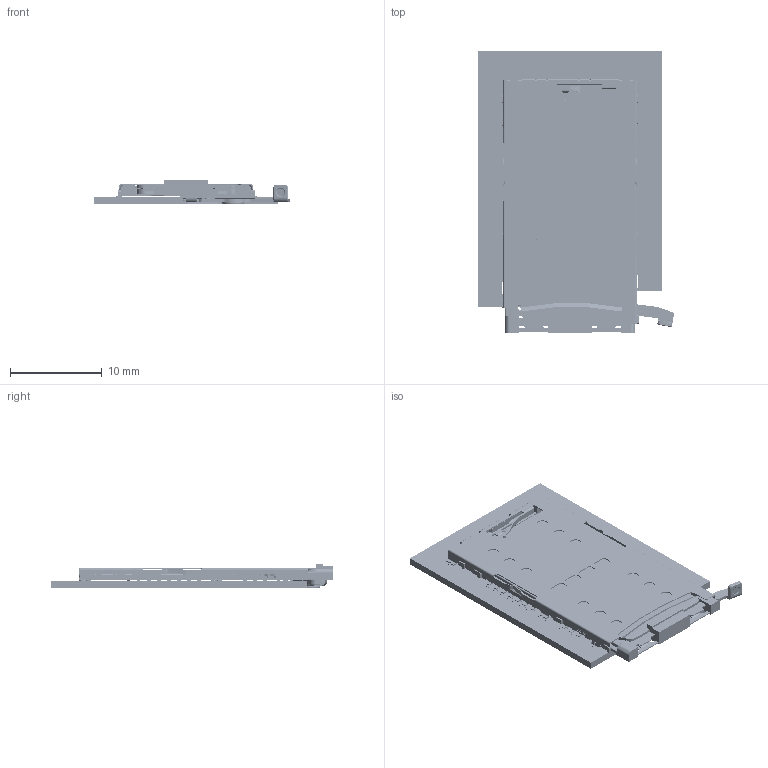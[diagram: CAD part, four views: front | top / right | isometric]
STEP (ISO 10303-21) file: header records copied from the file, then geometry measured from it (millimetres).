
FILE_DESCRIPTION((''),'2;1');
FILE_NAME('1052001BR002','2023-02-13T',('Administrator'),(''),'PRO/ENGINEER BY PARAMETRIC TECHNOLOGY CORPORATION, 2009440','PRO/ENGINEER BY PARAMETRIC TECHNOLOGY CORPORATION, 2009440','');
FILE_SCHEMA(('CONFIG_CONTROL_DESIGN'));
Products named in the file (1): 1052001BR002
Bounding box: 21.29 x 30.67 x 2.65 mm (x, y, z)
Volume: 197.8 mm3; surface area: 4473.2 mm2
Topology: 2 solids, 41 shells, 5819 faces, 16121 edges, 10451 vertices
Faces by surface type: plane 3032, cylinder 2208, extrusion 198, bspline 192, torus 149, cone 35, sphere 5
Entity records: 199239 total; most frequent: CARTESIAN_POINT 50477, ORIENTED_EDGE 31066, DIRECTION 30335, EDGE_CURVE 16113, VERTEX_POINT 10451, VECTOR 10209, AXIS2_PLACEMENT_3D 10063, LINE 10011
